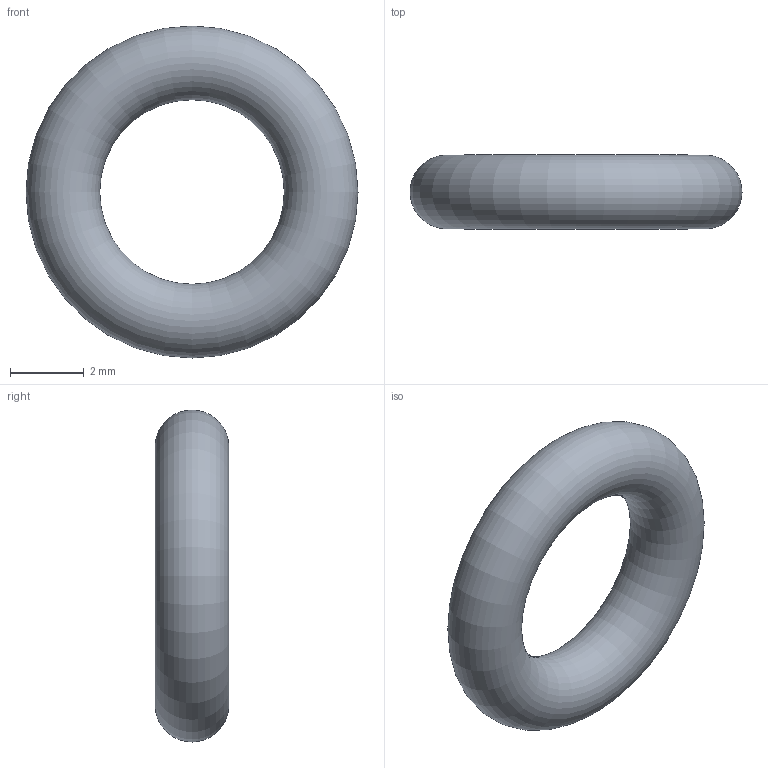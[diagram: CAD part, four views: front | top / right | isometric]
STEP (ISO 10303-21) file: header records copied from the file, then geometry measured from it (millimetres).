
FILE_DESCRIPTION( ( 'STEP AP203' ), '1' );
FILE_NAME( 'C:/Temp/Ganter_Step_05_03_2020/data/3_5/or638/O-Ring OR638-5.00-2.00-70.stp', '2020-03-12T13:44:20', ( 'License CC BY-ND 4.0' ), ( 'CADENAS' ), ' ', 'PARTsolutions', ' ' );
FILE_SCHEMA( ( 'CONFIG_CONTROL_DESIGN' ) );
Length unit declared in the file: millimetre
Products named in the file (1): _O-Ring OR638-5.00-2.00-70
Bounding box: 9 x 2 x 9 mm (x, y, z)
Volume: 69.1 mm3; surface area: 138.2 mm2
Topology: 1 solids, 1 shells, 1 faces, 2 edges, 1 vertices
Faces by surface type: torus 1
Entity records: 62 total; most frequent: CC_DESIGN_PERSON_AND_ORGANIZATION_ASSIGNMENT 5, PERSON_AND_ORGANIZATION_ROLE 4, DIRECTION 4, CARTESIAN_POINT 3, DATE_TIME_ROLE 2, CC_DESIGN_DATE_AND_TIME_ASSIGNMENT 2, AXIS2_PLACEMENT_3D 2, DIMENSIONAL_EXPONENTS 2
